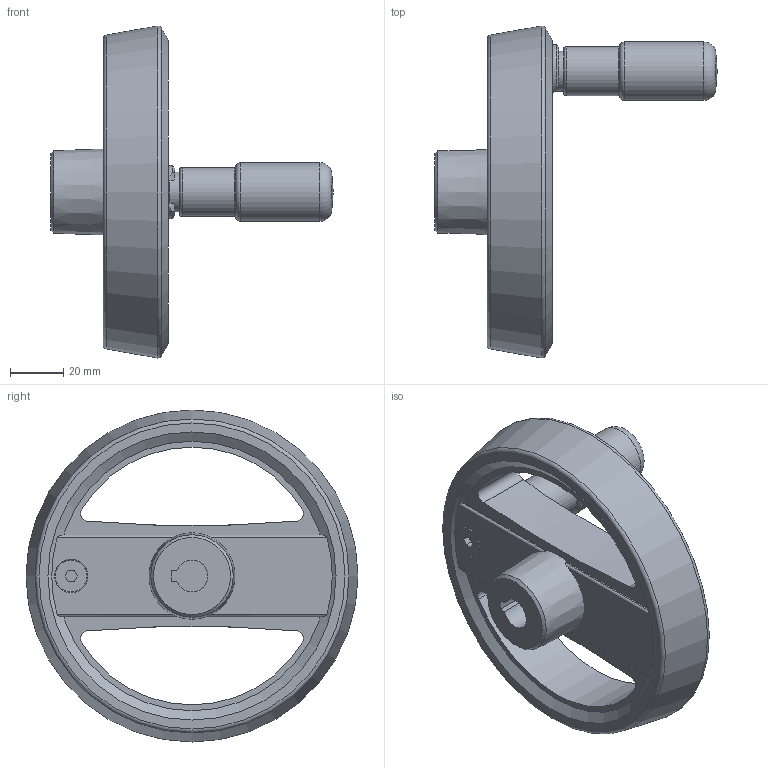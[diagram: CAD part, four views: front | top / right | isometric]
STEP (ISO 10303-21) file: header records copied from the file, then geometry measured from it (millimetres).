
FILE_DESCRIPTION( ( 'STEP AP203' ), '1' );
FILE_NAME( 'C:/Temp/Ganter_Step_05_03_2020/data/1_3/gn_924_7/gn_924_7_k/Handwheel with retractable handle GN 924.7-125-K12-R-SR (activated).stp', '2020-03-05T10:41:52', ( 'License CC BY-ND 4.0' ), ( 'CADENAS' ), ' ', 'PARTsolutions', ' ' );
FILE_SCHEMA( ( 'CONFIG_CONTROL_DESIGN' ) );
Length unit declared in the file: millimetre
Products named in the file (3): Handwheel with retractable handle GN 924.7-125-K12-R-SR (activated); _Umleggriff-Handrad GN 924.7-125-K12-R-SR-1; _Umleggriff-Handrad GN 924.7-125-K12-R-SR (90)-2
Assembly tree (2 placements, depth 2):
  Handwheel with retractable handle GN 924.7-125-K12-R-SR (activated)
    _Umleggriff-Handrad GN 924.7-125-K12-R-SR-1
    _Umleggriff-Handrad GN 924.7-125-K12-R-SR (90)-2
Bounding box: 106.3 x 125 x 125 mm (x, y, z)
Volume: 166721.4 mm3; surface area: 51755.9 mm2
Topology: 2 solids, 2 shells, 106 faces, 267 edges, 171 vertices
Faces by surface type: plane 46, cylinder 39, cone 11, torus 8, sphere 2
Full cylindrical faces by diameter (mm): 4 x4, 5 x1, 8 x1, 12 x1, 15 x1, 18.5 x1, 20 x1, 22 x1, 25 x1, 26.6 x1
Entity records: 3484 total; most frequent: CARTESIAN_POINT 988, DIRECTION 494, ORIENTED_EDGE 452, EDGE_CURVE 226, AXIS2_PLACEMENT_3D 203, VERTEX_POINT 165, EDGE_LOOP 158, FACE_OUTER_BOUND 126
